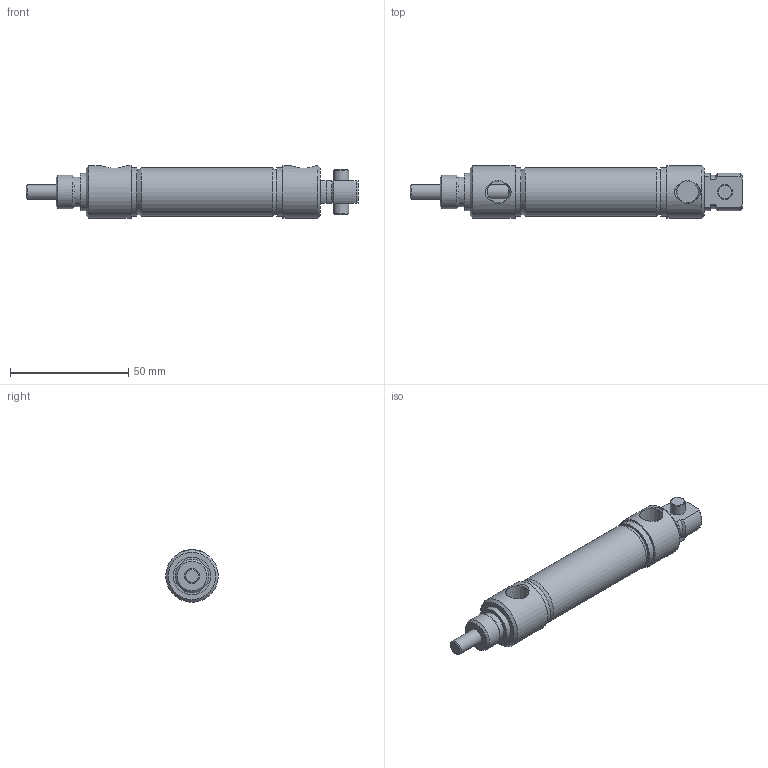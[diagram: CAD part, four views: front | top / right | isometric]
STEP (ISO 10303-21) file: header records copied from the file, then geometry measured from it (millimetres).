
FILE_DESCRIPTION( ( 'STEP AP214' ), '1' );
FILE_NAME( 'p:/temp/worker_432/temp/exporttempdir_82532_108_ggRzC/format_0/0750D02-01A.stp', '2020-05-07T14:35:06', ( 'License CC BY-ND 4.0' ), ( 'CADENAS' ), ' ', 'PARTsolutions', ' ' );
FILE_SCHEMA( ( 'AUTOMOTIVE_DESIGN { 1 0 10303 214 1 1 1 1 }' ) );
Length unit declared in the file: inch
Products named in the file (3): 0750D02-01A; _0750D02-01A-0000A00A0b; _0750D02-01A-0000A00A0r
Assembly tree (2 placements, depth 2):
  0750D02-01A
    _0750D02-01A-0000A00A0b
    _0750D02-01A-0000A00A0r
Bounding box: 140.49 x 22.23 x 22.23 mm (x, y, z)
Volume: 31646.8 mm3; surface area: 17855.2 mm2
Topology: 2 solids, 2 shells, 64 faces, 128 edges, 82 vertices
Faces by surface type: plane 24, cylinder 21, cone 19
Full cylindrical faces by diameter (mm): 6.35 x5, 12.609 x1, 14.287 x1, 15.85 x1, 19.05 x2, 20.472 x1, 20.65 x2, 22.225 x2
Entity records: 2306 total; most frequent: CARTESIAN_POINT 503, DIRECTION 274, ORIENTED_EDGE 198, AXIS2_PLACEMENT_3D 126, EDGE_LOOP 106, EDGE_CURVE 99, FACE_OUTER_BOUND 79, VERTEX_POINT 79
